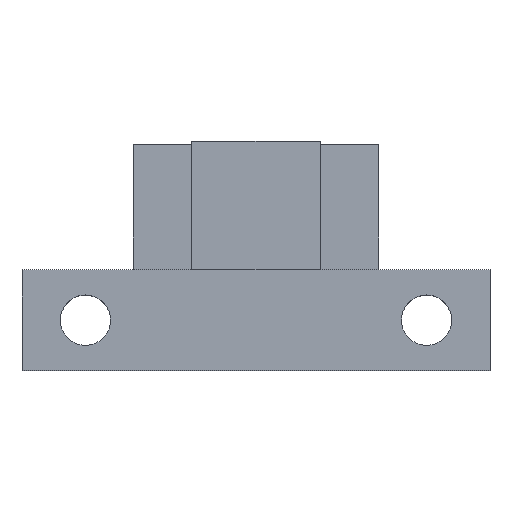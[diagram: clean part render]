
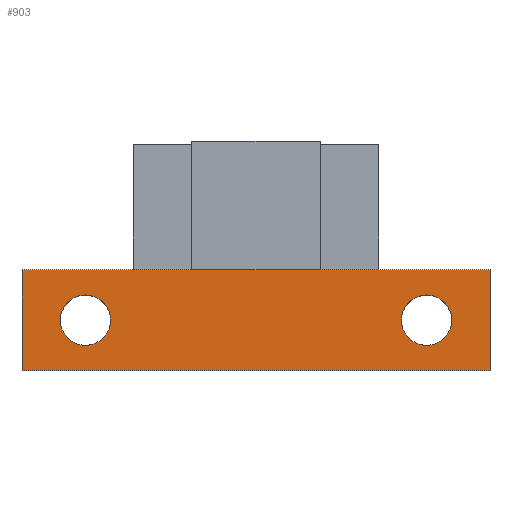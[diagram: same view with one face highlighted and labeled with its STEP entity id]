
A CAD part, top view. The second image highlights one B-rep face of the part: STEP entity #903.
In plain terms, the highlighted planar face has unit normal (0, 0, 1).
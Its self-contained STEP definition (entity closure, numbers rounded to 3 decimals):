
#105=FACE_BOUND('',#240,.T.);
#106=FACE_BOUND('',#241,.T.);
#119=PLANE('',#1058);
#161=FACE_OUTER_BOUND('',#239,.T.);
#239=EDGE_LOOP('',(#802,#803,#804,#805));
#240=EDGE_LOOP('',(#806));
#241=EDGE_LOOP('',(#807));
#304=LINE('',#1595,#375);
#305=LINE('',#1597,#376);
#306=LINE('',#1599,#377);
#307=LINE('',#1600,#378);
#375=VECTOR('',#1276,10.);
#376=VECTOR('',#1277,10.);
#377=VECTOR('',#1278,10.);
#378=VECTOR('',#1279,10.);
#433=CIRCLE('',#1053,2.15);
#435=CIRCLE('',#1056,2.15);
#491=VERTEX_POINT('',#1574);
#493=VERTEX_POINT('',#1580);
#498=VERTEX_POINT('',#1593);
#499=VERTEX_POINT('',#1594);
#500=VERTEX_POINT('',#1596);
#501=VERTEX_POINT('',#1598);
#595=EDGE_CURVE('',#491,#491,#433,.T.);
#598=EDGE_CURVE('',#493,#493,#435,.T.);
#603=EDGE_CURVE('',#498,#499,#304,.T.);
#604=EDGE_CURVE('',#499,#500,#305,.T.);
#605=EDGE_CURVE('',#501,#500,#306,.T.);
#606=EDGE_CURVE('',#498,#501,#307,.T.);
#802=ORIENTED_EDGE('',*,*,#603,.T.);
#803=ORIENTED_EDGE('',*,*,#604,.T.);
#804=ORIENTED_EDGE('',*,*,#605,.F.);
#805=ORIENTED_EDGE('',*,*,#606,.F.);
#806=ORIENTED_EDGE('',*,*,#595,.T.);
#807=ORIENTED_EDGE('',*,*,#598,.T.);
#903=ADVANCED_FACE('',(#161,#105,#106),#119,.T.);
#1053=AXIS2_PLACEMENT_3D('',#1576,#1259,#1260);
#1056=AXIS2_PLACEMENT_3D('',#1582,#1266,#1267);
#1058=AXIS2_PLACEMENT_3D('',#1592,#1274,#1275);
#1259=DIRECTION('center_axis',(0.,0.,-1.));
#1260=DIRECTION('ref_axis',(1.,0.,0.));
#1266=DIRECTION('center_axis',(0.,0.,-1.));
#1267=DIRECTION('ref_axis',(1.,0.,0.));
#1274=DIRECTION('center_axis',(0.,0.,1.));
#1275=DIRECTION('ref_axis',(1.,0.,0.));
#1276=DIRECTION('',(1.,0.,0.));
#1277=DIRECTION('',(0.,1.,0.));
#1278=DIRECTION('',(1.,0.,0.));
#1279=DIRECTION('',(0.,1.,0.));
#1574=CARTESIAN_POINT('',(12.43,4.3,10.));
#1576=CARTESIAN_POINT('Origin',(14.58,4.3,10.));
#1580=CARTESIAN_POINT('',(-16.73,4.3,10.));
#1582=CARTESIAN_POINT('Origin',(-14.58,4.3,10.));
#1592=CARTESIAN_POINT('Origin',(-20.,0.,10.));
#1593=CARTESIAN_POINT('',(-20.,0.,10.));
#1594=CARTESIAN_POINT('',(20.,0.,10.));
#1595=CARTESIAN_POINT('',(-20.,0.,10.));
#1596=CARTESIAN_POINT('',(20.,8.6,10.));
#1597=CARTESIAN_POINT('',(20.,0.,10.));
#1598=CARTESIAN_POINT('',(-20.,8.6,10.));
#1599=CARTESIAN_POINT('',(-20.,8.6,10.));
#1600=CARTESIAN_POINT('',(-20.,0.,10.));
